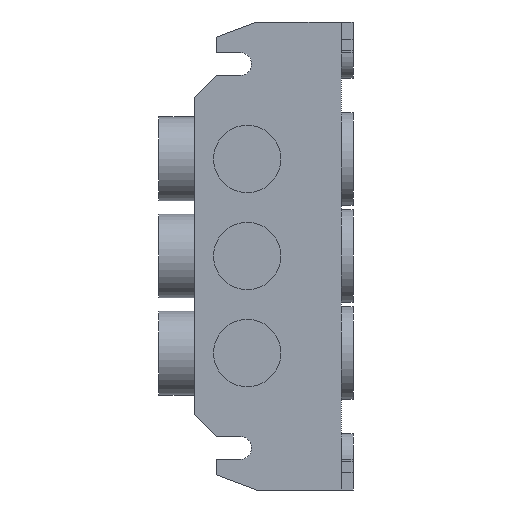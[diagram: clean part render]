
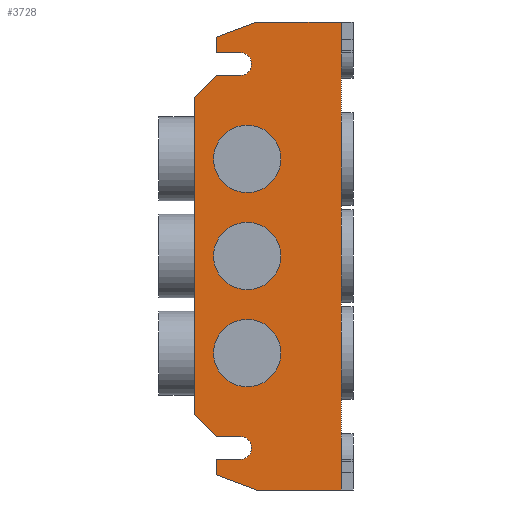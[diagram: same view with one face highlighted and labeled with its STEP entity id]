
A CAD part, left-side view. The second image highlights one B-rep face of the part: STEP entity #3728.
In plain terms, the highlighted planar face has unit normal (-1, 0, 0).
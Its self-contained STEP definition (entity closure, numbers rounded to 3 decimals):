
#22=DIRECTION('',(0.,-1.,0.));
#23=VECTOR('',#22,19.15);
#24=CARTESIAN_POINT('',(-11.,19.15,-53.));
#25=LINE('1506',#24,#23);
#307=DIRECTION('',(0.,0.,1.));
#308=VECTOR('',#307,106.);
#309=CARTESIAN_POINT('',(-11.,0.,-53.));
#310=LINE('113',#309,#308);
#588=CARTESIAN_POINT('',(-11.,21.3,-22.));
#589=DIRECTION('',(-1.,0.,0.));
#590=DIRECTION('',(0.,0.,1.));
#591=AXIS2_PLACEMENT_3D('',#588,#589,#590);
#593=CARTESIAN_POINT('',(-11.,21.3,-22.));
#594=DIRECTION('',(-1.,0.,0.));
#595=DIRECTION('',(0.,0.,-1.));
#596=AXIS2_PLACEMENT_3D('',#593,#594,#595);
#598=CARTESIAN_POINT('',(-11.,21.3,0.));
#599=DIRECTION('',(-1.,0.,0.));
#600=DIRECTION('',(0.,0.,-1.));
#601=AXIS2_PLACEMENT_3D('',#598,#599,#600);
#603=CARTESIAN_POINT('',(-11.,21.3,0.));
#604=DIRECTION('',(-1.,0.,0.));
#605=DIRECTION('',(0.,0.,1.));
#606=AXIS2_PLACEMENT_3D('',#603,#604,#605);
#608=CARTESIAN_POINT('',(-11.,21.3,22.));
#609=DIRECTION('',(-1.,0.,0.));
#610=DIRECTION('',(0.,0.,-1.));
#611=AXIS2_PLACEMENT_3D('',#608,#609,#610);
#613=CARTESIAN_POINT('',(-11.,21.3,22.));
#614=DIRECTION('',(-1.,0.,0.));
#615=DIRECTION('',(0.,0.,1.));
#616=AXIS2_PLACEMENT_3D('',#613,#614,#615);
#618=DIRECTION('',(0.,-0.936,-0.351));
#619=VECTOR('',#618,9.772);
#620=CARTESIAN_POINT('',(-11.,28.3,-49.57));
#621=LINE('1581',#620,#619);
#622=DIRECTION('',(0.,0.,-1.));
#623=VECTOR('',#622,3.5);
#624=CARTESIAN_POINT('',(-11.,28.3,-46.07));
#625=LINE('1580',#624,#623);
#626=DIRECTION('',(0.,1.,0.));
#627=VECTOR('',#626,5.45);
#628=CARTESIAN_POINT('',(-11.,22.85,-46.07));
#629=LINE('1579',#628,#627);
#630=CARTESIAN_POINT('',(-11.,22.85,-43.52));
#631=DIRECTION('',(1.,0.,0.));
#632=DIRECTION('',(0.,-1.,0.));
#633=AXIS2_PLACEMENT_3D('',#630,#631,#632);
#635=DIRECTION('',(0.,0.,-1.));
#636=VECTOR('',#635,0.1);
#637=CARTESIAN_POINT('',(-11.,20.3,-43.42));
#638=LINE('1577',#637,#636);
#639=CARTESIAN_POINT('',(-11.,22.85,-43.42));
#640=DIRECTION('',(1.,0.,0.));
#641=DIRECTION('',(0.,0.,1.));
#642=AXIS2_PLACEMENT_3D('',#639,#640,#641);
#644=DIRECTION('',(0.,-1.,0.));
#645=VECTOR('',#644,5.45);
#646=CARTESIAN_POINT('',(-11.,28.3,-40.87));
#647=LINE('1575',#646,#645);
#648=DIRECTION('',(0.,-0.707,-0.707));
#649=VECTOR('',#648,7.071);
#650=CARTESIAN_POINT('',(-11.,33.3,-35.87));
#651=LINE('1574',#650,#649);
#652=DIRECTION('',(0.,0.,1.));
#653=VECTOR('',#652,71.74);
#654=CARTESIAN_POINT('',(-11.,33.3,-35.87));
#655=LINE('1508',#654,#653);
#656=DIRECTION('',(0.,0.707,-0.707));
#657=VECTOR('',#656,7.071);
#658=CARTESIAN_POINT('',(-11.,28.3,40.87));
#659=LINE('1663',#658,#657);
#660=DIRECTION('',(0.,1.,0.));
#661=VECTOR('',#660,5.45);
#662=CARTESIAN_POINT('',(-11.,22.85,40.87));
#663=LINE('1662',#662,#661);
#664=CARTESIAN_POINT('',(-11.,22.85,43.42));
#665=DIRECTION('',(1.,0.,0.));
#666=DIRECTION('',(0.,-1.,0.));
#667=AXIS2_PLACEMENT_3D('',#664,#665,#666);
#669=DIRECTION('',(0.,0.,-1.));
#670=VECTOR('',#669,0.1);
#671=CARTESIAN_POINT('',(-11.,20.3,43.52));
#672=LINE('1660',#671,#670);
#673=CARTESIAN_POINT('',(-11.,22.85,43.52));
#674=DIRECTION('',(1.,0.,0.));
#675=DIRECTION('',(0.,0.,1.));
#676=AXIS2_PLACEMENT_3D('',#673,#674,#675);
#678=DIRECTION('',(0.,-1.,0.));
#679=VECTOR('',#678,5.45);
#680=CARTESIAN_POINT('',(-11.,28.3,46.07));
#681=LINE('1658',#680,#679);
#682=DIRECTION('',(0.,0.,-1.));
#683=VECTOR('',#682,3.5);
#684=CARTESIAN_POINT('',(-11.,28.3,49.57));
#685=LINE('1657',#684,#683);
#686=DIRECTION('',(0.,0.936,-0.351));
#687=VECTOR('',#686,9.772);
#688=CARTESIAN_POINT('',(-11.,19.15,53.));
#689=LINE('1656',#688,#687);
#1380=DIRECTION('',(0.,-1.,0.));
#1381=VECTOR('',#1380,19.15);
#1382=CARTESIAN_POINT('',(-11.,19.15,53.));
#1383=LINE('1676',#1382,#1381);
#2404=CARTESIAN_POINT('',(-11.,0.,-53.));
#2405=CARTESIAN_POINT('',(-11.,0.,53.));
#2406=VERTEX_POINT('',#2404);
#2407=VERTEX_POINT('',#2405);
#2542=CARTESIAN_POINT('',(-11.,19.15,-53.));
#2543=VERTEX_POINT('',#2542);
#2548=CARTESIAN_POINT('',(-11.,33.3,-35.87));
#2549=CARTESIAN_POINT('',(-11.,33.3,35.87));
#2550=VERTEX_POINT('',#2548);
#2551=VERTEX_POINT('',#2549);
#2570=CARTESIAN_POINT('',(-11.,28.3,-40.87));
#2571=VERTEX_POINT('',#2570);
#2572=CARTESIAN_POINT('',(-11.,22.85,-40.87));
#2573=VERTEX_POINT('',#2572);
#2574=CARTESIAN_POINT('',(-11.,20.3,-43.42));
#2575=VERTEX_POINT('',#2574);
#2576=CARTESIAN_POINT('',(-11.,20.3,-43.52));
#2577=VERTEX_POINT('',#2576);
#2578=CARTESIAN_POINT('',(-11.,22.85,-46.07));
#2579=VERTEX_POINT('',#2578);
#2580=CARTESIAN_POINT('',(-11.,28.3,-46.07));
#2581=VERTEX_POINT('',#2580);
#2582=CARTESIAN_POINT('',(-11.,28.3,-49.57));
#2583=VERTEX_POINT('',#2582);
#2606=CARTESIAN_POINT('',(-11.,19.15,53.));
#2608=VERTEX_POINT('',#2606);
#2628=CARTESIAN_POINT('',(-11.,28.3,49.57));
#2629=VERTEX_POINT('',#2628);
#2630=CARTESIAN_POINT('',(-11.,28.3,46.07));
#2631=VERTEX_POINT('',#2630);
#2632=CARTESIAN_POINT('',(-11.,22.85,46.07));
#2633=VERTEX_POINT('',#2632);
#2634=CARTESIAN_POINT('',(-11.,20.3,43.52));
#2635=VERTEX_POINT('',#2634);
#2636=CARTESIAN_POINT('',(-11.,20.3,43.42));
#2637=VERTEX_POINT('',#2636);
#2638=CARTESIAN_POINT('',(-11.,22.85,40.87));
#2639=VERTEX_POINT('',#2638);
#2640=CARTESIAN_POINT('',(-11.,28.3,40.87));
#2641=VERTEX_POINT('',#2640);
#2888=CARTESIAN_POINT('',(-11.,21.3,-14.375));
#2889=CARTESIAN_POINT('',(-11.,21.3,-29.625));
#2890=VERTEX_POINT('',#2888);
#2891=VERTEX_POINT('',#2889);
#2896=CARTESIAN_POINT('',(-11.,21.3,-7.625));
#2897=CARTESIAN_POINT('',(-11.,21.3,7.625));
#2898=VERTEX_POINT('',#2896);
#2899=VERTEX_POINT('',#2897);
#2904=CARTESIAN_POINT('',(-11.,21.3,14.375));
#2905=CARTESIAN_POINT('',(-11.,21.3,29.625));
#2906=VERTEX_POINT('',#2904);
#2907=VERTEX_POINT('',#2905);
#3665=CARTESIAN_POINT('',(-11.,33.3,-53.));
#3666=DIRECTION('',(-1.,0.,0.));
#3667=DIRECTION('',(0.,-1.,0.));
#3668=AXIS2_PLACEMENT_3D('',#3665,#3666,#3667);
#3669=PLANE('110',#3668);
#3670=ORIENTED_EDGE('1506',*,*,#2935,.F.);
#3672=ORIENTED_EDGE('1581',*,*,#3671,.F.);
#3674=ORIENTED_EDGE('1580',*,*,#3673,.F.);
#3676=ORIENTED_EDGE('1579',*,*,#3675,.F.);
#3678=ORIENTED_EDGE('1578',*,*,#3677,.F.);
#3680=ORIENTED_EDGE('1577',*,*,#3679,.F.);
#3682=ORIENTED_EDGE('1576',*,*,#3681,.F.);
#3684=ORIENTED_EDGE('1575',*,*,#3683,.F.);
#3686=ORIENTED_EDGE('1574',*,*,#3685,.F.);
#3688=ORIENTED_EDGE('1508',*,*,#3687,.T.);
#3690=ORIENTED_EDGE('1663',*,*,#3689,.F.);
#3692=ORIENTED_EDGE('1662',*,*,#3691,.F.);
#3694=ORIENTED_EDGE('1661',*,*,#3693,.F.);
#3696=ORIENTED_EDGE('1660',*,*,#3695,.F.);
#3698=ORIENTED_EDGE('1659',*,*,#3697,.F.);
#3700=ORIENTED_EDGE('1658',*,*,#3699,.F.);
#3702=ORIENTED_EDGE('1657',*,*,#3701,.F.);
#3704=ORIENTED_EDGE('1656',*,*,#3703,.F.);
#3706=ORIENTED_EDGE('1676',*,*,#3705,.T.);
#3707=ORIENTED_EDGE('113',*,*,#3154,.F.);
#3708=EDGE_LOOP('110',(#3670,#3672,#3674,#3676,#3678,#3680,#3682,#3684,#3686,
#3688,#3690,#3692,#3694,#3696,#3698,#3700,#3702,#3704,#3706,#3707));
#3709=FACE_OUTER_BOUND('110',#3708,.F.);
#3711=ORIENTED_EDGE('3712',*,*,#3710,.T.);
#3713=ORIENTED_EDGE('3713',*,*,#3712,.T.);
#3714=EDGE_LOOP('110',(#3711,#3713));
#3715=FACE_BOUND('110',#3714,.F.);
#3717=ORIENTED_EDGE('3749',*,*,#3716,.T.);
#3719=ORIENTED_EDGE('3750',*,*,#3718,.T.);
#3720=EDGE_LOOP('110',(#3717,#3719));
#3721=FACE_BOUND('110',#3720,.F.);
#3723=ORIENTED_EDGE('3794',*,*,#3722,.T.);
#3725=ORIENTED_EDGE('3795',*,*,#3724,.T.);
#3726=EDGE_LOOP('110',(#3723,#3725));
#3727=FACE_BOUND('110',#3726,.F.);
#3728=ADVANCED_FACE('110',(#3709,#3715,#3721,#3727),#3669,.T.);
#592=CIRCLE('3712',#591,7.625);
#597=CIRCLE('3713',#596,7.625);
#602=CIRCLE('3749',#601,7.625);
#607=CIRCLE('3750',#606,7.625);
#612=CIRCLE('3794',#611,7.625);
#617=CIRCLE('3795',#616,7.625);
#634=CIRCLE('1578',#633,2.55);
#643=CIRCLE('1576',#642,2.55);
#668=CIRCLE('1661',#667,2.55);
#677=CIRCLE('1659',#676,2.55);
#2935=EDGE_CURVE('1506',#2543,#2406,#25,.T.);
#3154=EDGE_CURVE('113',#2406,#2407,#310,.T.);
#3671=EDGE_CURVE('1581',#2583,#2543,#621,.T.);
#3673=EDGE_CURVE('1580',#2581,#2583,#625,.T.);
#3675=EDGE_CURVE('1579',#2579,#2581,#629,.T.);
#3677=EDGE_CURVE('1578',#2577,#2579,#634,.T.);
#3679=EDGE_CURVE('1577',#2575,#2577,#638,.T.);
#3681=EDGE_CURVE('1576',#2573,#2575,#643,.T.);
#3683=EDGE_CURVE('1575',#2571,#2573,#647,.T.);
#3685=EDGE_CURVE('1574',#2550,#2571,#651,.T.);
#3687=EDGE_CURVE('1508',#2550,#2551,#655,.T.);
#3689=EDGE_CURVE('1663',#2641,#2551,#659,.T.);
#3691=EDGE_CURVE('1662',#2639,#2641,#663,.T.);
#3693=EDGE_CURVE('1661',#2637,#2639,#668,.T.);
#3695=EDGE_CURVE('1660',#2635,#2637,#672,.T.);
#3697=EDGE_CURVE('1659',#2633,#2635,#677,.T.);
#3699=EDGE_CURVE('1658',#2631,#2633,#681,.T.);
#3701=EDGE_CURVE('1657',#2629,#2631,#685,.T.);
#3703=EDGE_CURVE('1656',#2608,#2629,#689,.T.);
#3705=EDGE_CURVE('1676',#2608,#2407,#1383,.T.);
#3710=EDGE_CURVE('3712',#2890,#2891,#592,.T.);
#3712=EDGE_CURVE('3713',#2891,#2890,#597,.T.);
#3716=EDGE_CURVE('3749',#2898,#2899,#602,.T.);
#3718=EDGE_CURVE('3750',#2899,#2898,#607,.T.);
#3722=EDGE_CURVE('3794',#2906,#2907,#612,.T.);
#3724=EDGE_CURVE('3795',#2907,#2906,#617,.T.);
